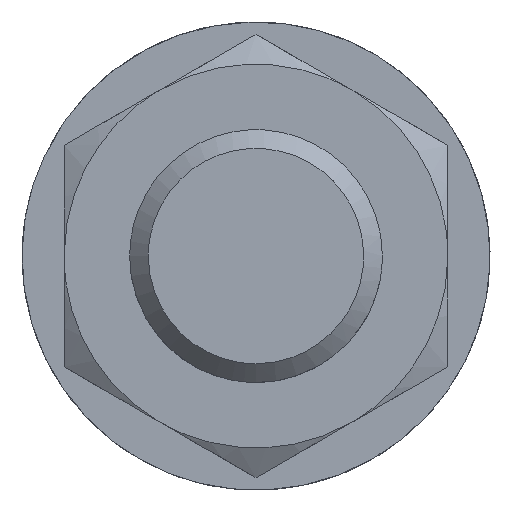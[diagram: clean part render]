
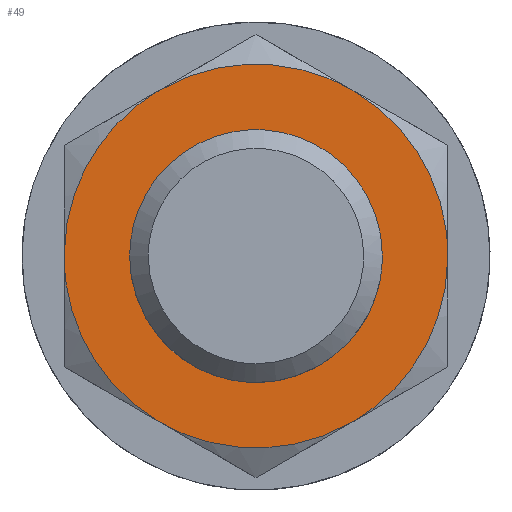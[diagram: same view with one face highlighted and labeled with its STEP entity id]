
A CAD part, left-side view. The second image highlights one B-rep face of the part: STEP entity #49.
In plain terms, the highlighted planar face has unit normal (-1, 0, 0).
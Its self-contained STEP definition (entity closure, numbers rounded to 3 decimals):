
#40=FACE_BOUND('',#138,.T.);
#49=ADVANCED_FACE('',(#92,#40),#658,.T.);
#92=FACE_OUTER_BOUND('',#137,.T.);
#137=EDGE_LOOP('',(#202,#203,#204,#205,#206,#207));
#138=EDGE_LOOP('',(#208,#209));
#202=ORIENTED_EDGE('',*,*,#403,.F.);
#203=ORIENTED_EDGE('',*,*,#405,.F.);
#204=ORIENTED_EDGE('',*,*,#406,.F.);
#205=ORIENTED_EDGE('',*,*,#404,.F.);
#206=ORIENTED_EDGE('',*,*,#402,.F.);
#207=ORIENTED_EDGE('',*,*,#401,.F.);
#208=ORIENTED_EDGE('',*,*,#391,.F.);
#209=ORIENTED_EDGE('',*,*,#389,.F.);
#389=EDGE_CURVE('',#604,#594,#515,.T.);
#391=EDGE_CURVE('',#594,#604,#516,.T.);
#401=EDGE_CURVE('',#598,#599,#524,.T.);
#402=EDGE_CURVE('',#599,#603,#525,.T.);
#403=EDGE_CURVE('',#600,#598,#526,.T.);
#404=EDGE_CURVE('',#603,#602,#527,.T.);
#405=EDGE_CURVE('',#601,#600,#528,.T.);
#406=EDGE_CURVE('',#602,#601,#529,.T.);
#515=(
BOUNDED_CURVE()
B_SPLINE_CURVE(2,(#1161,#1162,#1163,#1164,#1165),.UNSPECIFIED.,.F.,.F.)
B_SPLINE_CURVE_WITH_KNOTS((3,2,3),(42.411,63.616,84.822),
 .UNSPECIFIED.)
CURVE()
GEOMETRIC_REPRESENTATION_ITEM()
RATIONAL_B_SPLINE_CURVE((1.,0.707,1.,0.707,1.))
REPRESENTATION_ITEM('')
);
#516=(
BOUNDED_CURVE()
B_SPLINE_CURVE(2,(#1168,#1169,#1170,#1171,#1172),.UNSPECIFIED.,.F.,.F.)
B_SPLINE_CURVE_WITH_KNOTS((3,2,3),(0.,21.205,42.411),
 .UNSPECIFIED.)
CURVE()
GEOMETRIC_REPRESENTATION_ITEM()
RATIONAL_B_SPLINE_CURVE((1.,0.707,1.,0.707,1.))
REPRESENTATION_ITEM('')
);
#524=(
BOUNDED_CURVE()
B_SPLINE_CURVE(2,(#1210,#1211,#1212),.UNSPECIFIED.,.F.,.F.)
B_SPLINE_CURVE_WITH_KNOTS((3,3),(0.,21.468),.UNSPECIFIED.)
CURVE()
GEOMETRIC_REPRESENTATION_ITEM()
RATIONAL_B_SPLINE_CURVE((1.,0.866,1.))
REPRESENTATION_ITEM('')
);
#525=(
BOUNDED_CURVE()
B_SPLINE_CURVE(2,(#1213,#1214,#1215),.UNSPECIFIED.,.F.,.F.)
B_SPLINE_CURVE_WITH_KNOTS((3,3),(0.,21.468),.UNSPECIFIED.)
CURVE()
GEOMETRIC_REPRESENTATION_ITEM()
RATIONAL_B_SPLINE_CURVE((1.,0.866,1.))
REPRESENTATION_ITEM('')
);
#526=(
BOUNDED_CURVE()
B_SPLINE_CURVE(2,(#1216,#1217,#1218),.UNSPECIFIED.,.F.,.F.)
B_SPLINE_CURVE_WITH_KNOTS((3,3),(0.,21.468),.UNSPECIFIED.)
CURVE()
GEOMETRIC_REPRESENTATION_ITEM()
RATIONAL_B_SPLINE_CURVE((1.,0.866,1.))
REPRESENTATION_ITEM('')
);
#527=(
BOUNDED_CURVE()
B_SPLINE_CURVE(2,(#1219,#1220,#1221),.UNSPECIFIED.,.F.,.F.)
B_SPLINE_CURVE_WITH_KNOTS((3,3),(0.,21.468),.UNSPECIFIED.)
CURVE()
GEOMETRIC_REPRESENTATION_ITEM()
RATIONAL_B_SPLINE_CURVE((1.,0.866,1.))
REPRESENTATION_ITEM('')
);
#528=(
BOUNDED_CURVE()
B_SPLINE_CURVE(2,(#1222,#1223,#1224),.UNSPECIFIED.,.F.,.F.)
B_SPLINE_CURVE_WITH_KNOTS((3,3),(0.,21.468),.UNSPECIFIED.)
CURVE()
GEOMETRIC_REPRESENTATION_ITEM()
RATIONAL_B_SPLINE_CURVE((1.,0.866,1.))
REPRESENTATION_ITEM('')
);
#529=(
BOUNDED_CURVE()
B_SPLINE_CURVE(2,(#1225,#1226,#1227),.UNSPECIFIED.,.F.,.F.)
B_SPLINE_CURVE_WITH_KNOTS((3,3),(0.,21.468),.UNSPECIFIED.)
CURVE()
GEOMETRIC_REPRESENTATION_ITEM()
RATIONAL_B_SPLINE_CURVE((1.,0.866,1.))
REPRESENTATION_ITEM('')
);
#594=VERTEX_POINT('',#1129);
#598=VERTEX_POINT('',#1133);
#599=VERTEX_POINT('',#1134);
#600=VERTEX_POINT('',#1135);
#601=VERTEX_POINT('',#1136);
#602=VERTEX_POINT('',#1137);
#603=VERTEX_POINT('',#1138);
#604=VERTEX_POINT('',#1139);
#658=PLANE('',#772);
#772=AXIS2_PLACEMENT_3D('',#886,#798,$);
#798=DIRECTION('',(-1.,0.,0.));
#886=CARTESIAN_POINT('',(38.333,-24.72,-28.526));
#1129=CARTESIAN_POINT('',(38.333,13.5,0.));
#1133=CARTESIAN_POINT('',(38.333,-10.25,-17.754));
#1134=CARTESIAN_POINT('',(38.333,10.25,-17.754));
#1135=CARTESIAN_POINT('',(38.333,-20.5,0.));
#1136=CARTESIAN_POINT('',(38.333,-10.25,17.754));
#1137=CARTESIAN_POINT('',(38.333,10.25,17.754));
#1138=CARTESIAN_POINT('',(38.333,20.5,0.));
#1139=CARTESIAN_POINT('',(38.333,-13.5,0.));
#1161=CARTESIAN_POINT('',(38.333,-13.5,0.));
#1162=CARTESIAN_POINT('',(38.333,-13.5,13.5));
#1163=CARTESIAN_POINT('',(38.333,0.,13.5));
#1164=CARTESIAN_POINT('',(38.333,13.5,13.5));
#1165=CARTESIAN_POINT('',(38.333,13.5,0.));
#1168=CARTESIAN_POINT('',(38.333,13.5,0.));
#1169=CARTESIAN_POINT('',(38.333,13.5,-13.5));
#1170=CARTESIAN_POINT('',(38.333,0.,-13.5));
#1171=CARTESIAN_POINT('',(38.333,-13.5,-13.5));
#1172=CARTESIAN_POINT('',(38.333,-13.5,0.));
#1210=CARTESIAN_POINT('',(38.333,-10.25,-17.754));
#1211=CARTESIAN_POINT('',(38.333,0.,-23.671));
#1212=CARTESIAN_POINT('',(38.333,10.25,-17.754));
#1213=CARTESIAN_POINT('',(38.333,10.25,-17.754));
#1214=CARTESIAN_POINT('',(38.333,20.5,-11.836));
#1215=CARTESIAN_POINT('',(38.333,20.5,0.));
#1216=CARTESIAN_POINT('',(38.333,-20.5,0.));
#1217=CARTESIAN_POINT('',(38.333,-20.5,-11.836));
#1218=CARTESIAN_POINT('',(38.333,-10.25,-17.754));
#1219=CARTESIAN_POINT('',(38.333,20.5,0.));
#1220=CARTESIAN_POINT('',(38.333,20.5,11.836));
#1221=CARTESIAN_POINT('',(38.333,10.25,17.754));
#1222=CARTESIAN_POINT('',(38.333,-10.25,17.754));
#1223=CARTESIAN_POINT('',(38.333,-20.5,11.836));
#1224=CARTESIAN_POINT('',(38.333,-20.5,0.));
#1225=CARTESIAN_POINT('',(38.333,10.25,17.754));
#1226=CARTESIAN_POINT('',(38.333,0.,23.671));
#1227=CARTESIAN_POINT('',(38.333,-10.25,17.754));
